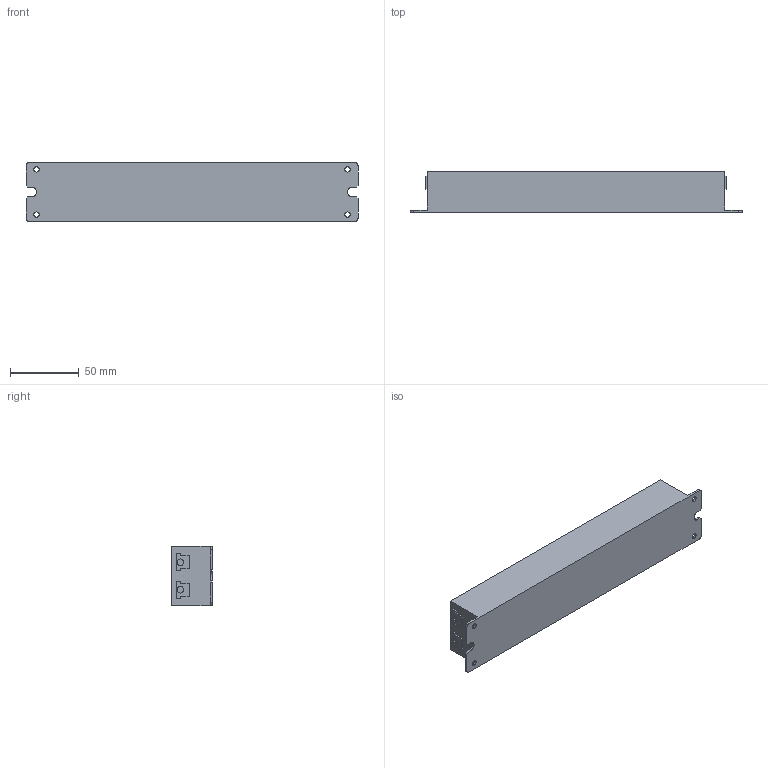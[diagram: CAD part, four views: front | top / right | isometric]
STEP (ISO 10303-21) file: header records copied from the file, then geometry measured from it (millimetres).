
FILE_DESCRIPTION (( 'STEP AP214' ), '1' );
FILE_NAME ('ACEH10I1555CPUS.STEP', '2026-05-21T22:47:01', ( '' ), ( '' ), 'SwSTEP 2.0', 'SolidWorks 2026', '' );
FILE_SCHEMA (( 'AUTOMOTIVE_DESIGN' ));
Length unit declared in the file: inch
Products named in the file (1): ACEH10I1555CPUS
Bounding box: 241.3 x 29.46 x 43.18 mm (x, y, z)
Volume: 276550.9 mm3; surface area: 37089.2 mm2
Topology: 5 solids, 5 shells, 458 faces, 1233 edges, 822 vertices
Faces by surface type: plane 267, bspline 167, cylinder 24
Entity records: 23834 total; most frequent: CARTESIAN_POINT 13329, ORIENTED_EDGE 2466, DIRECTION 1531, EDGE_CURVE 1233, LINE 851, VECTOR 851, VERTEX_POINT 822, EDGE_LOOP 511
